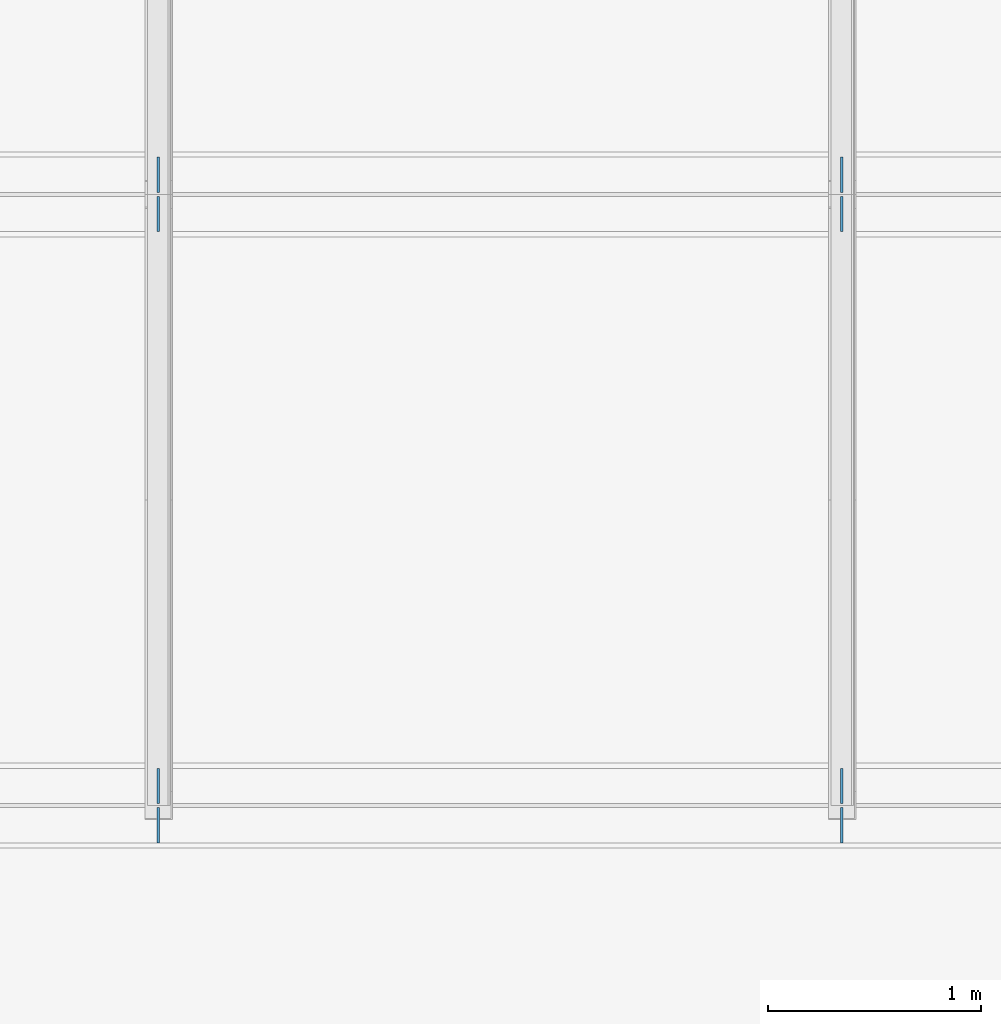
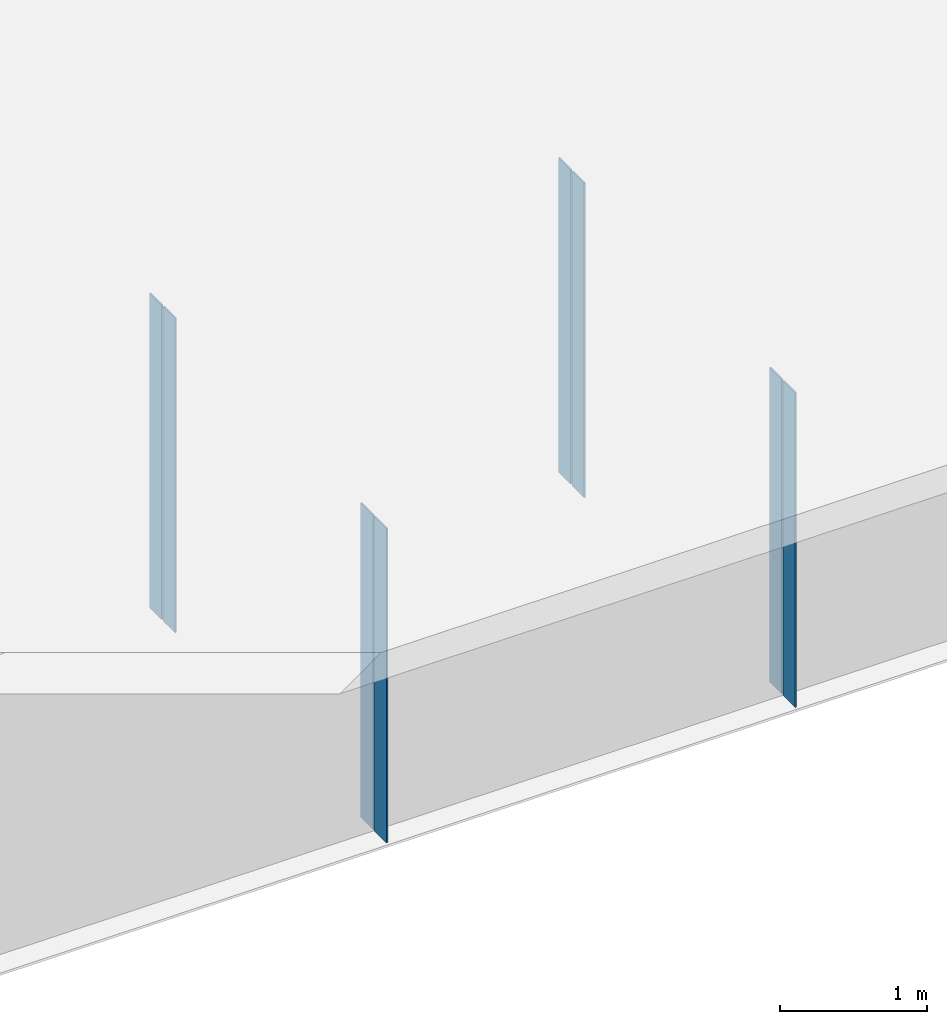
# One storey, part 4 of 13: 8 plates.
"""IFC4 building model written with IfcOpenShell, lengths in metres."""

from ifc_helpers import new_model, si_unit, frame, origin, origin_with_axes, origin_2d_with_axis, place, context, subcontext, project, spatial, rectangle, extrude, element, save


model = new_model("IFC4")

# Units and contexts
model_context = context("Model", 3, precision=1e-05, world=origin())
body_context = subcontext(model_context, "Body", "Model", "MODEL_VIEW")
ifc_project = project(units=[si_unit("LENGTHUNIT", "METRE"), si_unit("AREAUNIT", "SQUARE_METRE"), si_unit("VOLUMEUNIT", "CUBIC_METRE"), si_unit("PLANEANGLEUNIT", "RADIAN")], contexts=[model_context])

# Site, building, storey
site_placement = place(None, origin_with_axes())
site = spatial("IfcSite", under=ifc_project, at=site_placement, Name="Default Site")
building_placement = place(site_placement, origin_with_axes())
building = spatial("IfcBuilding", under=site, at=building_placement, Name="Bridge Structure")
storey_placement = place(building_placement, origin_with_axes())
storey = spatial("IfcBuildingStorey", under=building, at=storey_placement, Name="Superstructure")

# Plates
for number, where, z_axis, x_axis, name in (
    (1, (16.07, -4.2205, -1.307), (0.0, 0.0, 1.0), (1.0, 0.0, 0.0), "Intermediate Stiffener 1"),
    (2, (16.07, -4.4045000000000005, -1.307), (0.0, 0.0, 1.0), (1.0, 0.0, 0.0), "Intermediate Stiffener 1"),
    (3, (19.284, -4.2205, -1.307), (0.0, 0.0, 1.0), (1.0, 0.0, 0.0), "Intermediate Stiffener 1"),
    (4, (19.284, -4.4045000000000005, -1.307), (0.0, 0.0, 1.0), (1.0, 0.0, 0.0), "Intermediate Stiffener 1"),
    (5, (16.07, -1.3455, -1.307), (0.0, 0.0, 1.0), (1.0, 0.0, 0.0), "Intermediate Stiffener 2"),
    (6, (16.07, -1.5295, -1.307), (0.0, 0.0, 1.0), (1.0, 0.0, 0.0), "Intermediate Stiffener 2"),
    (7, (19.284, -1.3455, -1.307), (0.0, 0.0, 1.0), (1.0, 0.0, 0.0), "Intermediate Stiffener 2"),
    (8, (19.284, -1.5295, -1.307), (0.0, 0.0, 1.0), (1.0, 0.0, 0.0), "Intermediate Stiffener 2"),
):
    element("IfcPlate", number, at=place(storey_placement, frame(where, z_axis=z_axis, x_axis=x_axis)), inside=storey, Name=name, context=body_context, shape_type="SweptSolid", body=[
        extrude(rectangle(XDim=0.012, YDim=0.166, at=origin_2d_with_axis()), origin_with_axes(), (0.0, 0.0, 1.0), 2.614),
    ])

save(model, "model.ifc")
